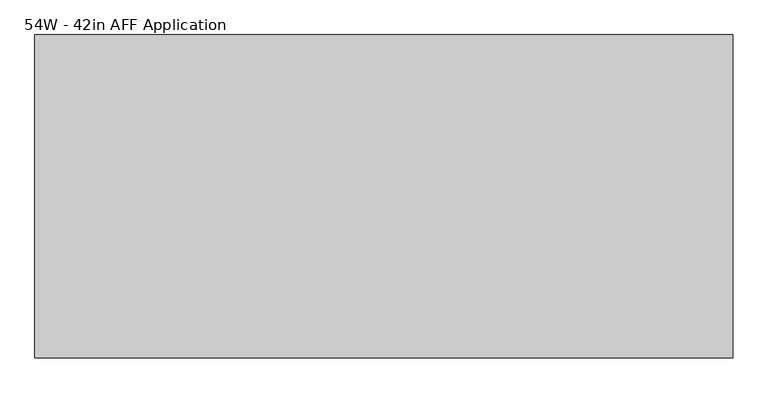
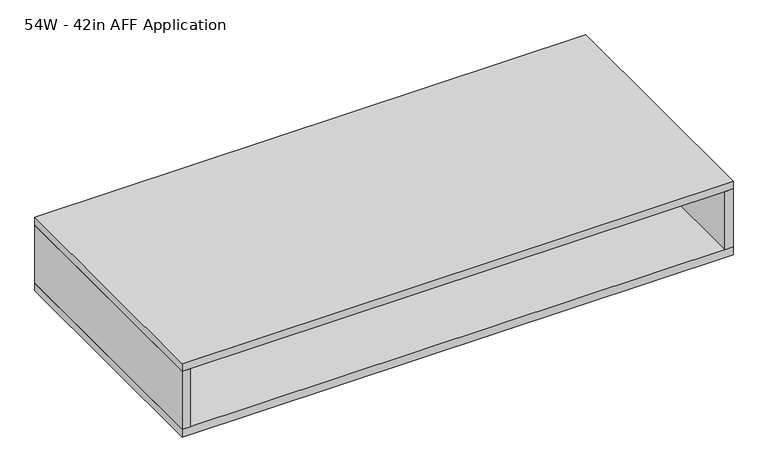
"""IFC4 building model written with IfcOpenShell, lengths in millimetres: furniture geometry, Steelcase - Duo Storage - For Use with Top Cap Mounted Storage - Slim : 54W - 42in AFF Application."""

from ifc_helpers import new_model, si_unit, frame, origin, place, context, project, spatial, polyline, outline, extrude, source, transform, mapped, element, save


def furniture_54w_42in_aff_application_afbcb237(model_context):
    return source(origin(), model_context, "Body", "SweptSolid", [
        extrude(outline(polyline([(1351.2799516, 317.4999523), (1371.6, 317.4999523), (1371.6, -317.5000477), (1351.2799516, -317.5000477), (1351.2799516, 317.4999523)])), frame((0.0, 0.0, 1085.0879793), z_axis=(0.0, 0.0, 1.0), x_axis=(1.0, 0.0, 0.0)), (0.0, 0.0, 1.0), 152.6539882),
        extrude(outline(polyline([(1371.6, 317.4999523), (1371.6, -317.5000477), (0.0, -317.5000477), (0.0, 317.4999523), (1371.6, 317.4999523)])), frame((0.0, 0.0, 1237.7419674), z_axis=(0.0, 0.0, 1.0), x_axis=(1.0, 0.0, 0.0)), (0.0, 0.0, 1.0), 20.3200326),
        extrude(outline(polyline([(1351.2799516, 11.303), (1351.2799516, -11.303), (20.3199129, -11.303), (20.3199129, 11.303), (1351.2799516, 11.303)])), frame((0.0, 0.0, 1085.0879793), z_axis=(0.0, 0.0, 1.0), x_axis=(1.0, 0.0, 0.0)), (0.0, 0.0, 1.0), 152.6539882),
        extrude(outline(polyline([(20.3199129, 317.4999523), (20.3199129, -317.5000477), (0.0, -317.5000477), (0.0, 317.4999523), (20.3199129, 317.4999523)])), frame((0.0, 0.0, 1085.0879793), z_axis=(0.0, 0.0, 1.0), x_axis=(1.0, 0.0, 0.0)), (0.0, 0.0, 1.0), 152.6539882),
        extrude(outline(polyline([(1371.6, 317.4999523), (1371.6, -317.5000477), (0.0, -317.5000477), (0.0, 317.4999523), (1371.6, 317.4999523)])), frame((0.0, 0.0, 1064.768), z_axis=(0.0, 0.0, 1.0), x_axis=(1.0, 0.0, 0.0)), (0.0, 0.0, 1.0), 20.3199793),
    ])


if __name__ == "__main__":
    model = new_model("IFC4")
    model_context = context("Model", 3, world=origin())
    ifc_project = project(units=[si_unit("LENGTHUNIT", "METRE", prefix="MILLI")], contexts=[model_context])
    site = spatial("IfcSite", under=ifc_project)
    building = spatial("IfcBuilding", under=site)
    placement = place(None, origin())
    furniture_54w_42in_aff_application_shape = furniture_54w_42in_aff_application_afbcb237(model_context)
    element("IfcFurniture", 1, ObjectType="Steelcase - Duo Storage - For Use with Top Cap Mounted Storage - Slim : 54W - 42in AFF Application", at=placement, inside=building, context=model_context, shape_type="MappedRepresentation", body=[
        mapped(furniture_54w_42in_aff_application_shape, transform((0.0, 0.0, 0.0), x_axis=(1.0, 0.0, 0.0), y_axis=(0.0, 1.0, 0.0), z_axis=(0.0, 0.0, 1.0))),
    ])
    save(model, "model.ifc")
